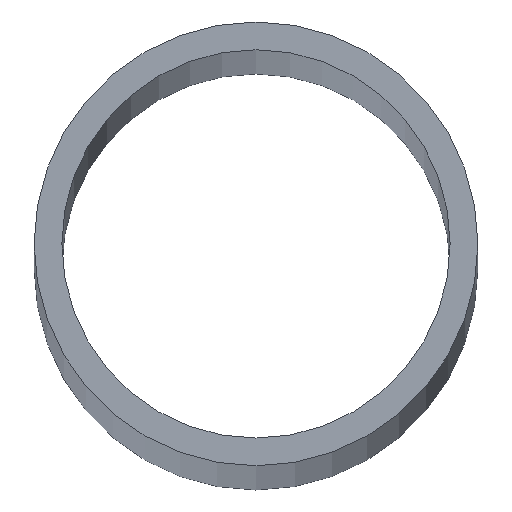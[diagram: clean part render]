
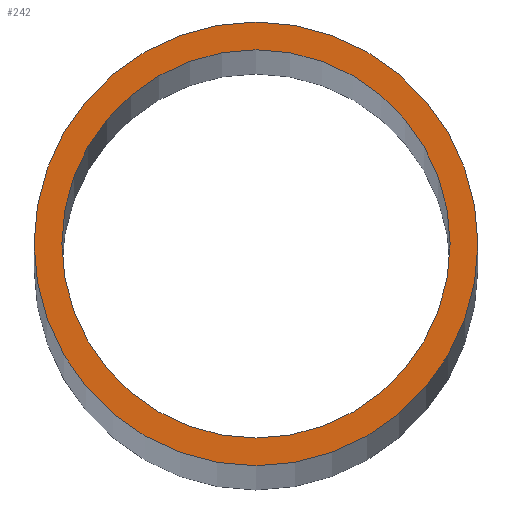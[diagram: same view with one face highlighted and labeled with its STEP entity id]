
A CAD part, top view. The second image highlights one B-rep face of the part: STEP entity #242.
In plain terms, the highlighted planar face has unit normal (0, 0, 1).
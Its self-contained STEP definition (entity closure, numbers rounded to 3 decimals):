
#3 = DIRECTION ( 'NONE',  ( 0., 0., 1. ) ) ;
#4 = DIRECTION ( 'NONE',  ( 1., 0., 0. ) ) ;
#10 = CARTESIAN_POINT ( 'NONE',  ( 0., 0., 1000. ) ) ;
#11 = DIRECTION ( 'NONE',  ( 0., 0., 1. ) ) ;
#12 = DIRECTION ( 'NONE',  ( 1., 0., 0. ) ) ;
#21 = CARTESIAN_POINT ( 'NONE',  ( 14., 0., 1000. ) ) ;
#29 = CARTESIAN_POINT ( 'NONE',  ( 16., 0., 1000. ) ) ;
#30 = CARTESIAN_POINT ( 'NONE',  ( 0., 0., 1000. ) ) ;
#31 = DIRECTION ( 'NONE',  ( 0., 0., 1. ) ) ;
#32 = DIRECTION ( 'NONE',  ( 1., 0., 0. ) ) ;
#33 = CARTESIAN_POINT ( 'NONE',  ( -14., 0., 1000. ) ) ;
#35 = CARTESIAN_POINT ( 'NONE',  ( -16., 0., 1000. ) ) ;
#40 = CARTESIAN_POINT ( 'NONE',  ( 0., 0., 1000. ) ) ;
#41 = DIRECTION ( 'NONE',  ( 0., 0., 1. ) ) ;
#42 = DIRECTION ( 'NONE',  ( 1., 0., 0. ) ) ;
#60 = CARTESIAN_POINT ( 'NONE',  ( 0., 0., 1000. ) ) ;
#63 = FACE_OUTER_BOUND ( 'NONE', #134, .T. ) ;
#64 = FACE_BOUND ( 'NONE', #133, .T. ) ;
#65 = PLANE ( 'NONE',  #232 ) ;
#66 = DIRECTION ( 'NONE',  ( 0., 0., 1. ) ) ;
#67 = DIRECTION ( 'NONE',  ( 1., 0., 0. ) ) ;
#133 = EDGE_LOOP ( 'NONE', ( #150, #188 ) ) ;
#134 = EDGE_LOOP ( 'NONE', ( #189, #190 ) ) ;
#150 = ORIENTED_EDGE ( 'NONE', *, *, #199, .F. ) ;
#165 = EDGE_CURVE ( 'NONE', #193, #192, #222, .T. ) ;
#167 = EDGE_CURVE ( 'NONE', #196, #197, #227, .T. ) ;
#172 = EDGE_CURVE ( 'NONE', #197, #196, #205, .T. ) ;
#188 = ORIENTED_EDGE ( 'NONE', *, *, #165, .F. ) ;
#189 = ORIENTED_EDGE ( 'NONE', *, *, #167, .T. ) ;
#190 = ORIENTED_EDGE ( 'NONE', *, *, #172, .T. ) ;
#192 = VERTEX_POINT ( 'NONE', #33 ) ;
#193 = VERTEX_POINT ( 'NONE', #21 ) ;
#196 = VERTEX_POINT ( 'NONE', #35 ) ;
#197 = VERTEX_POINT ( 'NONE', #29 ) ;
#199 = EDGE_CURVE ( 'NONE', #192, #193, #220, .T. ) ;
#205 = CIRCLE ( 'NONE', #207, 16. ) ;
#206 = AXIS2_PLACEMENT_3D ( 'NONE', #40, #41, #42 ) ;
#207 = AXIS2_PLACEMENT_3D ( 'NONE', #30, #31, #32 ) ;
#212 = AXIS2_PLACEMENT_3D ( 'NONE', #10, #11, #12 ) ;
#217 = AXIS2_PLACEMENT_3D ( 'NONE', #249, #3, #4 ) ;
#220 = CIRCLE ( 'NONE', #206, 14. ) ;
#222 = CIRCLE ( 'NONE', #217, 14. ) ;
#227 = CIRCLE ( 'NONE', #212, 16. ) ;
#232 = AXIS2_PLACEMENT_3D ( 'NONE', #60, #66, #67 ) ;
#242 = ADVANCED_FACE ( 'NONE', ( #63, #64 ), #65, .T. ) ;
#249 = CARTESIAN_POINT ( 'NONE',  ( 0., 0., 1000. ) ) ;
